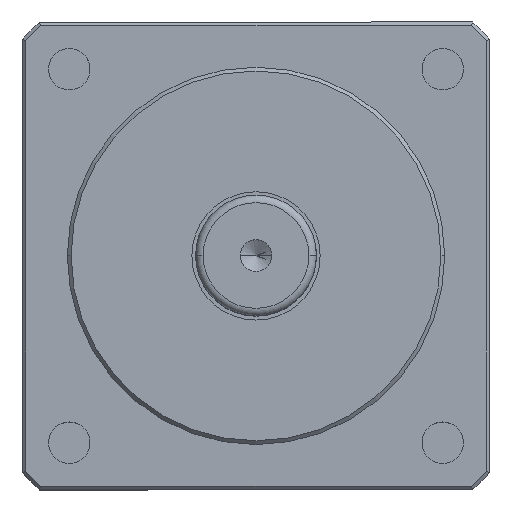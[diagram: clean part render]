
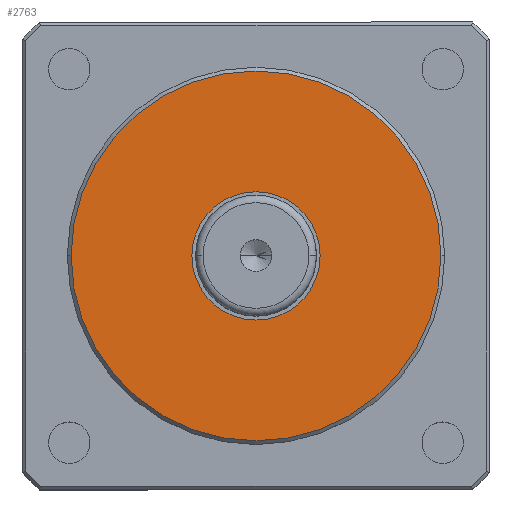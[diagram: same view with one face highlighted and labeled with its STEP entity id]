
A CAD part, top view. The second image highlights one B-rep face of the part: STEP entity #2763.
In plain terms, the highlighted planar face has unit normal (0, 0, 1).
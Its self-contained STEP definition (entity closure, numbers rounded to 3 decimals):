
#285 = EDGE_CURVE ( 'NONE', #4274, #4262, #2424, .T. ) ;
#286 = EDGE_CURVE ( 'NONE', #3119, #4546, #2426, .T. ) ;
#302 = EDGE_CURVE ( 'NONE', #4546, #3119, #2446, .T. ) ;
#306 = EDGE_CURVE ( 'NONE', #4262, #4274, #2451, .T. ) ;
#460 = AXIS2_PLACEMENT_3D ( 'NONE', #5333, #5338, #5339 ) ;
#545 = CARTESIAN_POINT ( 'NONE',  ( 0., 0., 22.5 ) ) ;
#546 = DIRECTION ( 'NONE',  ( 0., 0., 1. ) ) ;
#547 = DIRECTION ( 'NONE',  ( 1., 0., 0. ) ) ;
#704 = CARTESIAN_POINT ( 'NONE',  ( 0., 0., 22.5 ) ) ;
#705 = DIRECTION ( 'NONE',  ( 0., 0., 1. ) ) ;
#706 = DIRECTION ( 'NONE',  ( 1., 0., 0. ) ) ;
#756 = CARTESIAN_POINT ( 'NONE',  ( 0., 0., 22.5 ) ) ;
#757 = DIRECTION ( 'NONE',  ( 0., 0., 1. ) ) ;
#758 = DIRECTION ( 'NONE',  ( 1., 0., 0. ) ) ;
#760 = CARTESIAN_POINT ( 'NONE',  ( 0., 0., 22.5 ) ) ;
#761 = DIRECTION ( 'NONE',  ( 0., 0., 1. ) ) ;
#762 = DIRECTION ( 'NONE',  ( 1., 0., 0. ) ) ;
#1068 = FACE_OUTER_BOUND ( 'NONE', #3631, .T. ) ;
#1076 = FACE_BOUND ( 'NONE', #3418, .T. ) ;
#1237 = AXIS2_PLACEMENT_3D ( 'NONE', #756, #757, #758 ) ;
#1238 = AXIS2_PLACEMENT_3D ( 'NONE', #760, #761, #762 ) ;
#1246 = AXIS2_PLACEMENT_3D ( 'NONE', #704, #705, #706 ) ;
#1250 = AXIS2_PLACEMENT_3D ( 'NONE', #545, #546, #547 ) ;
#2424 = CIRCLE ( 'NONE', #1237, 8.5 ) ;
#2426 = CIRCLE ( 'NONE', #1238, 24.5 ) ;
#2446 = CIRCLE ( 'NONE', #1246, 24.5 ) ;
#2451 = CIRCLE ( 'NONE', #1250, 8.5 ) ;
#2763 = ADVANCED_FACE ( 'NONE', ( #1068, #1076 ), #5336, .T. ) ;
#3119 = VERTEX_POINT ( 'NONE', #4965 ) ;
#3418 = EDGE_LOOP ( 'NONE', ( #4151, #4152 ) ) ;
#3631 = EDGE_LOOP ( 'NONE', ( #4149, #4150 ) ) ;
#4149 = ORIENTED_EDGE ( 'NONE', *, *, #302, .T. ) ;
#4150 = ORIENTED_EDGE ( 'NONE', *, *, #286, .T. ) ;
#4151 = ORIENTED_EDGE ( 'NONE', *, *, #306, .F. ) ;
#4152 = ORIENTED_EDGE ( 'NONE', *, *, #285, .F. ) ;
#4262 = VERTEX_POINT ( 'NONE', #5106 ) ;
#4274 = VERTEX_POINT ( 'NONE', #5118 ) ;
#4546 = VERTEX_POINT ( 'NONE', #5128 ) ;
#4965 = CARTESIAN_POINT ( 'NONE',  ( 24.5, 0., 22.5 ) ) ;
#5106 = CARTESIAN_POINT ( 'NONE',  ( -8.5, 0., 22.5 ) ) ;
#5118 = CARTESIAN_POINT ( 'NONE',  ( 8.5, 0., 22.5 ) ) ;
#5128 = CARTESIAN_POINT ( 'NONE',  ( -24.5, 0., 22.5 ) ) ;
#5333 = CARTESIAN_POINT ( 'NONE',  ( 0., 0., 22.5 ) ) ;
#5336 = PLANE ( 'NONE',  #460 ) ;
#5338 = DIRECTION ( 'NONE',  ( 0., 0., 1. ) ) ;
#5339 = DIRECTION ( 'NONE',  ( 1., 0., 0. ) ) ;
